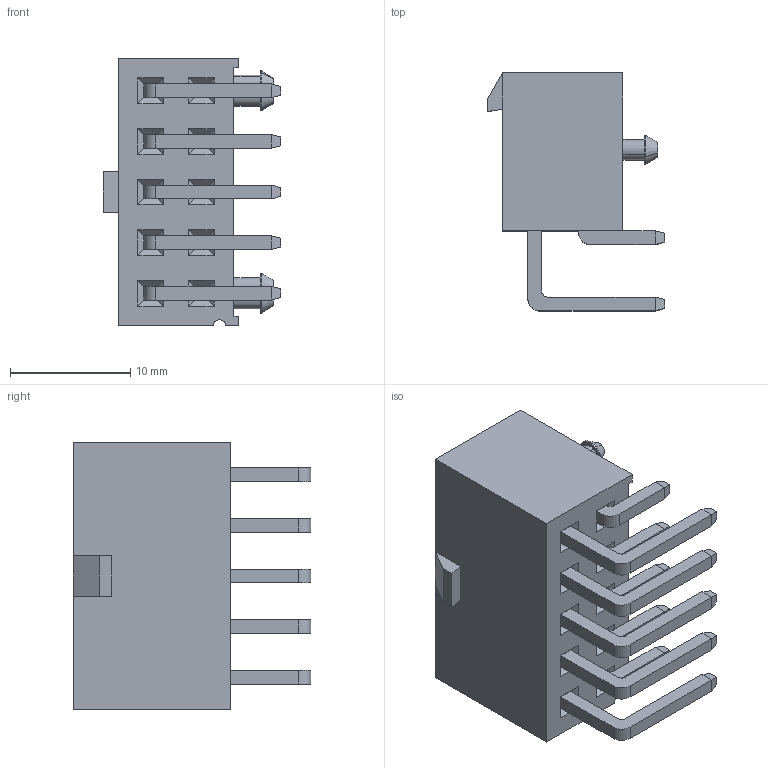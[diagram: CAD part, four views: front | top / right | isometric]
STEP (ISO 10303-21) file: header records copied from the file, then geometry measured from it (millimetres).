
FILE_DESCRIPTION(('CATIA V5 STEP Exchange'),'2;1');
FILE_NAME('F:\黄富鸿\条形连接器\4.20系列\01、02--5557（单、双排）\2xNAWD\HC-5557-2x5AWD-05（4.20 双排 带定位柱 弯针-HCTL）.stp','2025-12-04T01:15:57+00:00',('none'),('none'),'CATIA Version 5 Release 20 GA (IN-10)','CATIA V5 STEP AP203','none');
FILE_SCHEMA(('CONFIG_CONTROL_DESIGN'));
Length unit declared in the file: millimetre
Products named in the file (1): Part4
Bounding box: 14.75 x 19.74 x 22.2 mm (x, y, z)
Volume: 1729.3 mm3; surface area: 3854.7 mm2
Topology: 11 solids, 11 shells, 374 faces, 888 edges, 550 vertices
Faces by surface type: plane 328, cylinder 38, cone 8
Entity records: 9276 total; most frequent: ORIENTED_EDGE 1776, CARTESIAN_POINT 1675, DIRECTION 1120, EDGE_CURVE 888, VECTOR 724, LINE 724, VERTEX_POINT 550, EDGE_LOOP 408
